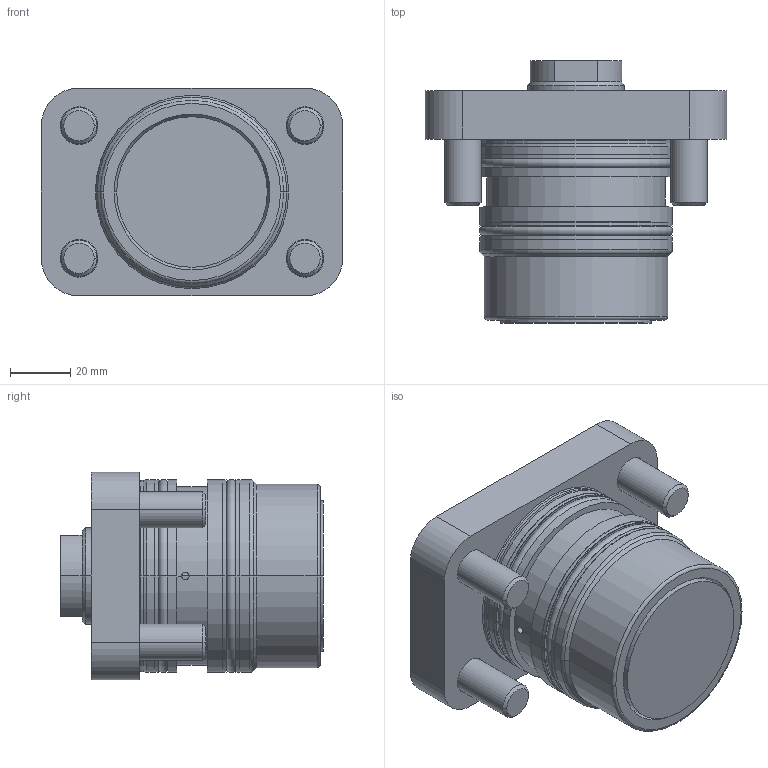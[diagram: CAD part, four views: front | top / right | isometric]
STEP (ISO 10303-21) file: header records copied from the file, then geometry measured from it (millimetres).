
FILE_DESCRIPTION (( 'STEP AP203' ), '1' );
FILE_NAME ('GERMA_Einbauzylinder_210-050-025.STEP', '2023-09-07T05:48:05', ( '' ), ( '' ), 'SwSTEP 2.0', 'SolidWorks 2016', '' );
FILE_SCHEMA (( 'CONFIG_CONTROL_DESIGN' ));
Length unit declared in the file: millimetre
Products named in the file (4): DIN7984-M12x30; GERMA_Einbauzylinder_210-050-025; Kolben 60x-050_Kolben DU.50-Hub25-IG; Gehaeuse 210-050_Gehaeuse 210-050-025
Assembly tree (6 placements, depth 2):
  GERMA_Einbauzylinder_210-050-025
    Gehaeuse 210-050_Gehaeuse 210-050-025
    Kolben 60x-050_Kolben DU.50-Hub25-IG
    DIN7984-M12x30  x4
Bounding box: 100 x 87 x 69 mm (x, y, z)
Volume: 266197.2 mm3; surface area: 67797.2 mm2
Topology: 6 solids, 6 shells, 374 faces, 893 edges, 558 vertices
Faces by surface type: plane 163, bspline 84, cylinder 75, cone 30, torus 22
Entity records: 12984 total; most frequent: CARTESIAN_POINT 5908, ORIENTED_EDGE 1430, DIRECTION 1218, EDGE_CURVE 715, VERTEX_POINT 459, AXIS2_PLACEMENT_3D 421, LINE 376, VECTOR 376
